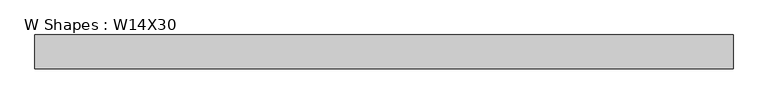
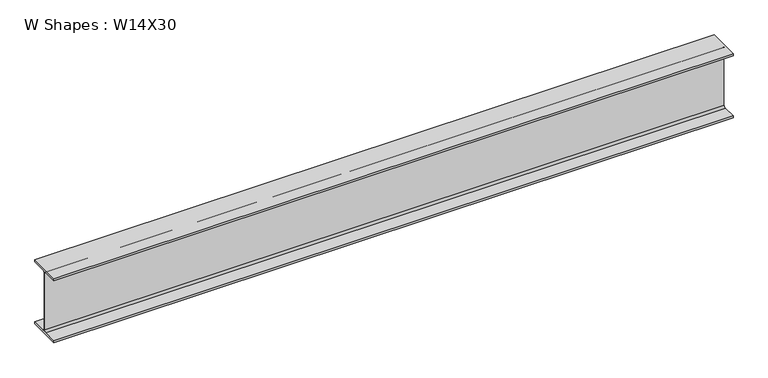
"""IFC4 building model written with IfcOpenShell, lengths in millimetres: beam geometry, W Shapes : W14X30."""

import ifcopenshell
import ifcopenshell.guid

model = None  # the IFC model being written
_history = None  # IfcOwnerHistory: only IFC2X3 demands one
_inside = {}  # id of a spatial element -> (the spatial element, [elements in it])
_under = {}  # id of a project, library or spatial element -> (it, [spatial elements below it])
_declared = {}  # id of a project -> (the project, [libraries it declares])
_typed = {}  # id of a type object -> (the type object, [elements of that type])
_made_of = {}  # id of a material, layer set ... -> (it, [elements and type objects made of it])


def new_model(schema):
    """Start an empty IFC model of exactly this schema.

    Asked for "IFC4X3", IfcOpenShell would pick the latest addendum, in which some entities
    have other attributes; the version numbers below select the first issue.
    IFC2X3 requires an IfcOwnerHistory on every rooted entity: one is made here for all.
    """
    global model, _history
    if schema == "IFC4X3":
        model = ifcopenshell.file(schema_version=(4, 3, 0, 0))
    else:
        model = ifcopenshell.file(schema=schema)
    _inside.clear()
    _under.clear()
    _declared.clear()
    _typed.clear()
    _made_of.clear()
    _history = None
    if model.schema == "IFC2X3":
        org = make("IfcOrganization", Name="unknown")
        user = make(
            "IfcPersonAndOrganization",
            ThePerson=make("IfcPerson", FamilyName="unknown"),
            TheOrganization=org,
        )
        app = make(
            "IfcApplication",
            ApplicationDeveloper=org,
            Version="unknown",
            ApplicationFullName="unknown",
            ApplicationIdentifier="unknown",
        )
        _history = make(
            "IfcOwnerHistory",
            OwningUser=user,
            OwningApplication=app,
            ChangeAction="ADDED",
            CreationDate=0,
        )
    return model


def make(cls, **values):
    """One entity of the class cls with the attributes given. An attribute that is None is left unset."""
    return model.create_entity(
        cls, **{name: value for name, value in values.items() if value is not None}
    )


def rooted(cls, **values):
    """An entity with a GlobalId (a new one), such as an element, a storey or a relation."""
    return make(cls, GlobalId=ifcopenshell.guid.new(), OwnerHistory=_history, **values)


def si_unit(unit_type, name, prefix=None):
    """IfcSIUnit, for example si_unit("LENGTHUNIT", "METRE", prefix="MILLI")."""
    return make("IfcSIUnit", UnitType=unit_type, Prefix=prefix, Name=name)


def assignment(units):
    """IfcUnitAssignment: the units of a project."""
    return None if units is None else make("IfcUnitAssignment", Units=units)


def point(xyz):
    """IfcCartesianPoint."""
    return None if xyz is None else make("IfcCartesianPoint", Coordinates=xyz)


def direction(xyz):
    """IfcDirection."""
    return None if xyz is None else make("IfcDirection", DirectionRatios=xyz)


def frame(location, z_axis=None, x_axis=None):
    """IfcAxis2Placement3D, a coordinate frame: its origin and axes. An axis left out is left unset."""
    return make(
        "IfcAxis2Placement3D",
        Location=point(location),
        Axis=direction(z_axis),
        RefDirection=direction(x_axis),
    )


def frame_2d(location, x_axis=None):
    """IfcAxis2Placement2D, a coordinate frame in the plane: its origin and x axis."""
    return make(
        "IfcAxis2Placement2D", Location=point(location), RefDirection=direction(x_axis)
    )


def origin():
    """The frame at (0, 0, 0) with its axes left unset."""
    return frame((0.0, 0.0, 0.0))


def place(relative_to, where):
    """IfcLocalPlacement: puts the frame where relative to a parent placement (None: the world)."""
    return make(
        "IfcLocalPlacement", PlacementRelTo=relative_to, RelativePlacement=where
    )


def context(
    kind, dimensions, precision=None, world=None, true_north=None, identifier=None
):
    """IfcGeometricRepresentationContext, for example the 3D "Model" context."""
    return make(
        "IfcGeometricRepresentationContext",
        ContextIdentifier=identifier,
        ContextType=kind,
        CoordinateSpaceDimension=dimensions,
        Precision=precision,
        WorldCoordinateSystem=world,
        TrueNorth=true_north,
    )


def project(units=None, contexts=None):
    """IfcProject with its units and contexts."""
    return rooted(
        "IfcProject",
        Name="project",
        RepresentationContexts=contexts,
        UnitsInContext=assignment(units),
    )


def spatial(cls, under=None, at=None, **own):
    """A site, building, storey or space (cls), placed at a placement, below another one or the project."""
    s = rooted(cls, ObjectPlacement=at, **own)
    if under is not None:
        _under.setdefault(under.id(), (under, []))[1].append(s)
    return s


def polyline(points):
    """IfcPolyline through the points."""
    return make("IfcPolyline", Points=[point(p) for p in points])


def circle_curve(where, radius):
    """IfcCircle in the frame where."""
    return make("IfcCircle", Position=where, Radius=radius)


def trimmed(basis, trim1, trim2, sense, master):
    """IfcTrimmedCurve: the piece of a basis curve between two trims."""
    return make(
        "IfcTrimmedCurve",
        BasisCurve=basis,
        Trim1=trim1,
        Trim2=trim2,
        SenseAgreement=sense,
        MasterRepresentation=master,
    )


def segment(curve, same_sense, transition):
    """IfcCompositeCurveSegment."""
    return make(
        "IfcCompositeCurveSegment",
        Transition=transition,
        SameSense=same_sense,
        ParentCurve=curve,
    )


def composite_curve(segments, self_intersect=None):
    """IfcCompositeCurve: segments joined end to end."""
    return make("IfcCompositeCurve", Segments=segments, SelfIntersect=self_intersect)


def outline(outer, holes=None, kind="AREA"):
    """IfcArbitraryClosedProfileDef: a profile drawn as a closed curve; with holes, ...WithVoids."""
    if holes is None:
        return make("IfcArbitraryClosedProfileDef", ProfileType=kind, OuterCurve=outer)
    return make(
        "IfcArbitraryProfileDefWithVoids",
        ProfileType=kind,
        OuterCurve=outer,
        InnerCurves=holes,
    )


def extrude(swept, where, along, depth):
    """IfcExtrudedAreaSolid: the profile swept, set in the frame where, extruded along a direction by depth."""
    return make(
        "IfcExtrudedAreaSolid",
        SweptArea=swept,
        Position=where,
        ExtrudedDirection=direction(along),
        Depth=depth,
    )


def shape(context_of_items, identifier, shape_type, items):
    """IfcShapeRepresentation: the items that make up one representation, for example the "Body"."""
    return make(
        "IfcShapeRepresentation",
        ContextOfItems=context_of_items,
        RepresentationIdentifier=identifier,
        RepresentationType=shape_type,
        Items=items,
    )


def source(mapping_origin, context_of_items, identifier, shape_type, items):
    """IfcRepresentationMap: a shape defined once, which mapped items show again and again."""
    return make(
        "IfcRepresentationMap",
        MappingOrigin=mapping_origin,
        MappedRepresentation=shape(context_of_items, identifier, shape_type, items),
    )


def transform(
    local_origin,
    x_axis=None,
    y_axis=None,
    z_axis=None,
    scale=None,
    scale2=None,
    scale3=None,
    uniform=True,
):
    """IfcCartesianTransformationOperator3D, or its non-uniform kind. x_axis, y_axis, z_axis: its Axis1, 2, 3."""
    if uniform:
        return make(
            "IfcCartesianTransformationOperator3D",
            Axis1=direction(x_axis),
            Axis2=direction(y_axis),
            LocalOrigin=point(local_origin),
            Scale=scale,
            Axis3=direction(z_axis),
        )
    return make(
        "IfcCartesianTransformationOperator3DnonUniform",
        Axis1=direction(x_axis),
        Axis2=direction(y_axis),
        LocalOrigin=point(local_origin),
        Scale=scale,
        Axis3=direction(z_axis),
        Scale2=scale2,
        Scale3=scale3,
    )


def mapped(mapping_source, mapping_target):
    """IfcMappedItem: shows the shape of a source again, moved by a transform."""
    return make(
        "IfcMappedItem", MappingSource=mapping_source, MappingTarget=mapping_target
    )


def made_of(thing, what):
    """Note that an element or type object is made of a material, layer set ...; save() writes the relation."""
    if what is not None:
        _made_of.setdefault(what.id(), (what, []))[1].append(thing)
    return thing


def element(
    cls,
    number,
    at=None,
    inside=None,
    cuts=None,
    type_object=None,
    material=None,
    context=None,
    identifier="Body",
    shape_type=None,
    held_by="IfcProductDefinitionShape",
    body=None,
    shapes=None,
    **own,
):
    """One element of the class cls, such as IfcWall. Its Tag is "e" and its number.

    at: its placement. inside: the storey or other place that contains it. cuts: it is an
    opening in that element (IfcRelVoidsElement). A single representation is given by context,
    identifier, shape_type and body (its items); several are given by shapes. held_by: the class
    of the entity that holds the representations. save() writes the other relations.
    """
    e = rooted(cls, Tag="e%d" % number, ObjectPlacement=at, **own)
    if body is not None:
        shapes = [shape(context, identifier, shape_type, body)]
    if shapes is not None:
        e.Representation = make(held_by, Representations=shapes)
    if inside is not None:
        _inside.setdefault(inside.id(), (inside, []))[1].append(e)
    if cuts is not None:
        rooted(
            "IfcRelVoidsElement", RelatingBuildingElement=cuts, RelatedOpeningElement=e
        )
    if type_object is not None:
        _typed.setdefault(type_object.id(), (type_object, []))[1].append(e)
    return made_of(e, material)


def aggregate(whole, parts):
    """IfcRelAggregates: a whole, such as a stair, and the parts it consists of."""
    return rooted("IfcRelAggregates", RelatingObject=whole, RelatedObjects=parts)


def save(model, path):
    """Write the relations noted so far, then the file.

    IfcRelAggregates (storeys below a building ...), IfcRelContainedInSpatialStructure (elements
    in a storey), IfcRelDefinesByType, IfcRelAssociatesMaterial and IfcRelDeclares: one each for
    every whole, place, type object, material and project.
    """
    for whole, parts in _under.values():
        aggregate(whole, parts)
    for where, things in _inside.values():
        rooted(
            "IfcRelContainedInSpatialStructure",
            RelatedElements=things,
            RelatingStructure=where,
        )
    for kind, things in _typed.values():
        rooted("IfcRelDefinesByType", RelatedObjects=things, RelatingType=kind)
    for what, things in _made_of.values():
        rooted("IfcRelAssociatesMaterial", RelatedObjects=things, RelatingMaterial=what)
    for by, libraries in _declared.values():
        rooted("IfcRelDeclares", RelatingContext=by, RelatedDefinitions=libraries)
    model.write(path)


def w_shapes_w14x30_4de1113a(model_context):
    return source(origin(), model_context, "Body", "SweptSolid", [
        extrude(outline(composite_curve([segment(polyline([(85.471, -165.354), (85.471, -175.26), (-85.471, -175.26), (-85.471, -165.354), (-13.589, -165.354)]), True, "CONTINUOUS"), segment(trimmed(circle_curve(frame_2d((-13.589, -155.194)), 10.16), [point((-13.589, -165.354))], [point((-3.429, -155.194))], True, "CARTESIAN"), True, "CONTINUOUS"), segment(polyline([(-3.429, -155.194), (-3.429, 155.194)]), True, "CONTINUOUS"), segment(trimmed(circle_curve(frame_2d((-13.589, 155.194)), 10.16), [point((-3.429, 155.194))], [point((-13.589, 165.354))], True, "CARTESIAN"), True, "CONTINUOUS"), segment(polyline([(-13.589, 165.354), (-85.471, 165.354), (-85.471, 175.26), (85.471, 175.26), (85.471, 165.354), (13.589, 165.354)]), True, "CONTINUOUS"), segment(trimmed(circle_curve(frame_2d((13.589, 155.194)), 10.16), [point((13.589, 165.354))], [point((3.429, 155.194))], True, "CARTESIAN"), True, "CONTINUOUS"), segment(polyline([(3.429, 155.194), (3.429, -155.194)]), True, "CONTINUOUS"), segment(trimmed(circle_curve(frame_2d((13.589, -155.194)), 10.16), [point((3.429, -155.194))], [point((13.589, -165.354))], True, "CARTESIAN"), True, "CONTINUOUS"), segment(polyline([(13.589, -165.354), (85.471, -165.354)]), True, "CONTINUOUS")], self_intersect=False)), frame((-1657.8365916, 0.0, 0.0), z_axis=(1.0, 0.0, 0.0), x_axis=(0.0, 1.0, 0.0)), (0.0, 0.0, 1.0), 3521.1389716),
    ])


if __name__ == "__main__":
    model = new_model("IFC4")
    model_context = context("Model", 3, world=origin())
    ifc_project = project(units=[si_unit("LENGTHUNIT", "METRE", prefix="MILLI")], contexts=[model_context])
    site = spatial("IfcSite", under=ifc_project)
    building = spatial("IfcBuilding", under=site)
    placement = place(None, origin())
    w_shapes_w14x30_shape = w_shapes_w14x30_4de1113a(model_context)
    element("IfcBeam", 1, ObjectType="W Shapes : W14X30", at=placement, inside=building, context=model_context, shape_type="MappedRepresentation", body=[
        mapped(w_shapes_w14x30_shape, transform((0.0, 0.0, 0.0), x_axis=(1.0, 0.0, 0.0), y_axis=(0.0, 1.0, 0.0), z_axis=(0.0, 0.0, 1.0))),
    ])
    save(model, "model.ifc")
